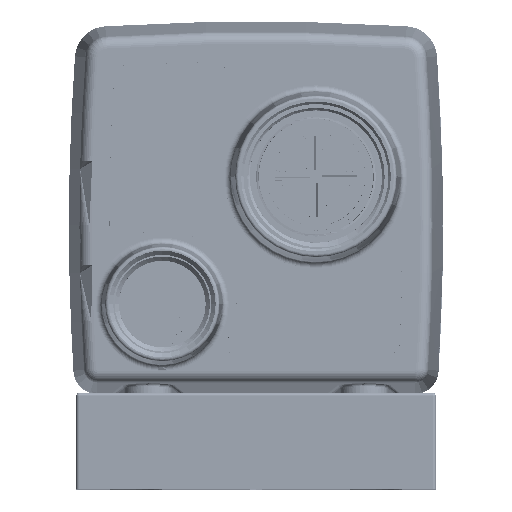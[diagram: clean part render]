
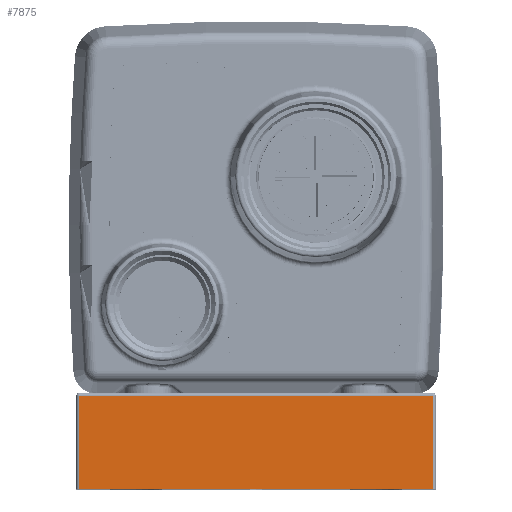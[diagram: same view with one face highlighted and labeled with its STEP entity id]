
A CAD part, top view. The second image highlights one B-rep face of the part: STEP entity #7875.
In plain terms, the highlighted planar face has unit normal (0, 0, 1).
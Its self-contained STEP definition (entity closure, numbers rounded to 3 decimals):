
#111 = CARTESIAN_POINT ( 'NONE',  ( -14.75, -0.25, 56. ) ) ;
#3629 = AXIS2_PLACEMENT_3D ( 'NONE', #54316, #153263, #68546 ) ;
#7875 = ADVANCED_FACE ( 'NONE', ( #55935 ), #124814, .F. ) ;
#17083 = LINE ( 'NONE', #142353, #54808 ) ;
#29296 = EDGE_CURVE ( 'NONE', #75663, #37476, #44610, .T. ) ;
#33404 = CARTESIAN_POINT ( 'NONE',  ( 14.75, -8., 56. ) ) ;
#37476 = VERTEX_POINT ( 'NONE', #33404 ) ;
#43330 = DIRECTION ( 'NONE',  ( -1., 0., 0. ) ) ;
#44610 = LINE ( 'NONE', #57751, #82398 ) ;
#54316 = CARTESIAN_POINT ( 'NONE',  ( 15., 0., 56. ) ) ;
#54808 = VECTOR ( 'NONE', #43330, 1000. ) ;
#55935 = FACE_OUTER_BOUND ( 'NONE', #78881, .T. ) ;
#57751 = CARTESIAN_POINT ( 'NONE',  ( 15., -8., 56. ) ) ;
#62785 = VERTEX_POINT ( 'NONE', #111 ) ;
#63150 = CARTESIAN_POINT ( 'NONE',  ( -14.75, 0., 56. ) ) ;
#68546 = DIRECTION ( 'NONE',  ( -1., 0., 0. ) ) ;
#69423 = ORIENTED_EDGE ( 'NONE', *, *, #139440, .T. ) ;
#74981 = CARTESIAN_POINT ( 'NONE',  ( 14.75, -0.25, 56. ) ) ;
#75663 = VERTEX_POINT ( 'NONE', #149976 ) ;
#77266 = VECTOR ( 'NONE', #104155, 1000. ) ;
#78881 = EDGE_LOOP ( 'NONE', ( #173522, #69423, #102944, #168144 ) ) ;
#82398 = VECTOR ( 'NONE', #128248, 1000. ) ;
#87408 = LINE ( 'NONE', #63150, #158131 ) ;
#91695 = DIRECTION ( 'NONE',  ( 0., -1., 0. ) ) ;
#102334 = VERTEX_POINT ( 'NONE', #74981 ) ;
#102944 = ORIENTED_EDGE ( 'NONE', *, *, #181408, .T. ) ;
#104155 = DIRECTION ( 'NONE',  ( 0., 1., 0. ) ) ;
#124814 = PLANE ( 'NONE',  #3629 ) ;
#128248 = DIRECTION ( 'NONE',  ( 1., 0., 0. ) ) ;
#136081 = EDGE_CURVE ( 'NONE', #62785, #75663, #87408, .T. ) ;
#139440 = EDGE_CURVE ( 'NONE', #37476, #102334, #181314, .T. ) ;
#142353 = CARTESIAN_POINT ( 'NONE',  ( 15., -0.25, 56. ) ) ;
#149976 = CARTESIAN_POINT ( 'NONE',  ( -14.75, -8., 56. ) ) ;
#153263 = DIRECTION ( 'NONE',  ( 0., 0., -1. ) ) ;
#158131 = VECTOR ( 'NONE', #91695, 1000. ) ;
#158528 = CARTESIAN_POINT ( 'NONE',  ( 14.75, 0., 56. ) ) ;
#168144 = ORIENTED_EDGE ( 'NONE', *, *, #136081, .T. ) ;
#173522 = ORIENTED_EDGE ( 'NONE', *, *, #29296, .T. ) ;
#181314 = LINE ( 'NONE', #158528, #77266 ) ;
#181408 = EDGE_CURVE ( 'NONE', #102334, #62785, #17083, .T. ) ;
